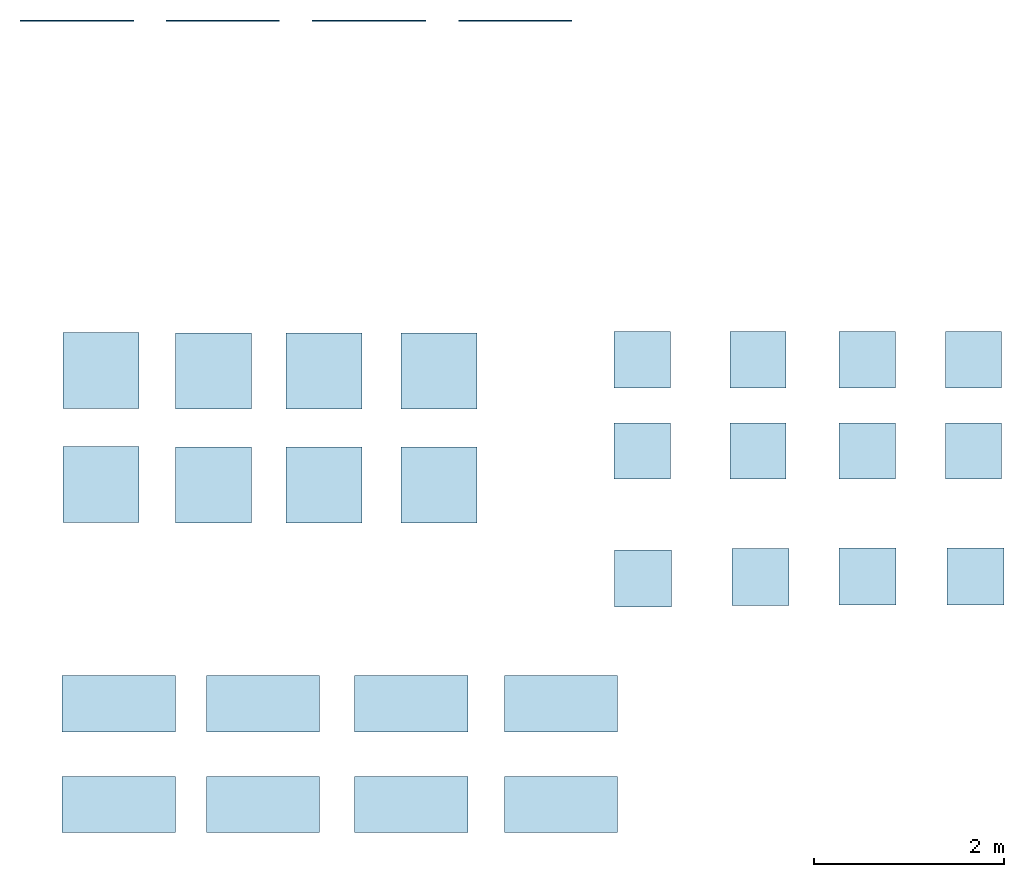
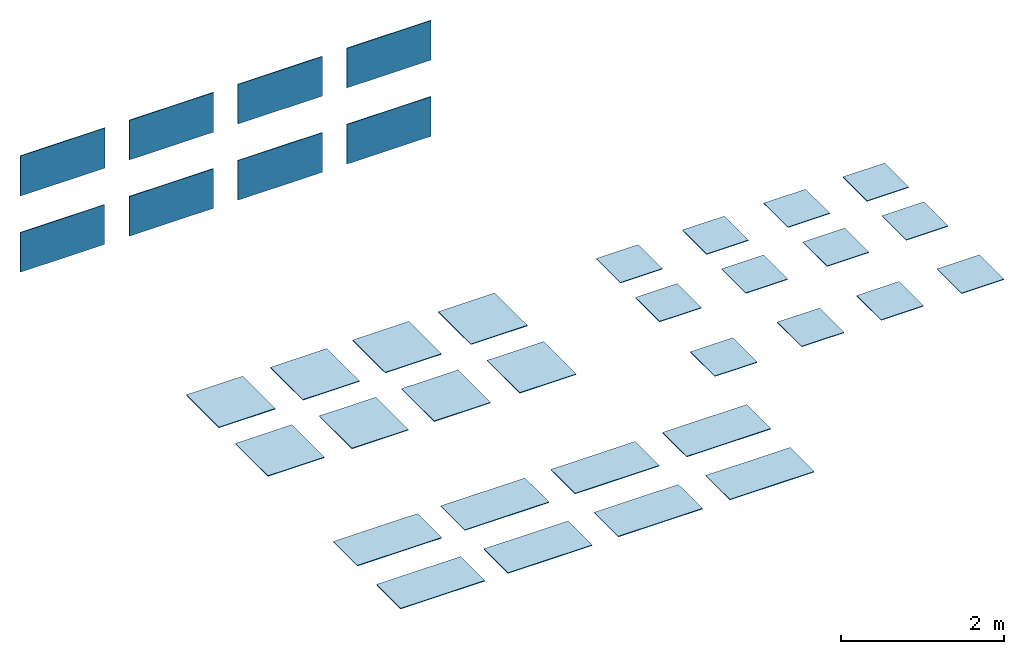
# One storey: 28 slabs, 8 walls.
"""IFC2X3 building model written with IfcOpenShell, lengths in metres."""

from ifc_helpers import new_model, entity, si_unit, converted_unit, derived_unit, direction, frame, frame_2d, origin, origin_2d_with_axis, place, context, subcontext, project, spatial, rectangle, extrude, material, layer, layer_set, layer_usage, type_object, element, save


model = new_model("IFC2X3")

# Units and contexts
model_context = context("Model", 3, precision=1e-05, world=origin(), true_north=direction((6.12303176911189e-17, 1.0)))
body_context = subcontext(model_context, "Body", "Model", "MODEL_VIEW")
ifc_project = project(units=[si_unit("LENGTHUNIT", "METRE"), si_unit("AREAUNIT", "SQUARE_METRE"), si_unit("VOLUMEUNIT", "CUBIC_METRE"), converted_unit("PLANEANGLEUNIT", "DEGREE", entity("IfcRatioMeasure", 0.0174532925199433), si_unit("PLANEANGLEUNIT", "RADIAN"), dimensions=[0, 0, 0, 0, 0, 0, 0]), si_unit("MASSUNIT", "GRAM", prefix="KILO"), si_unit("TIMEUNIT", "SECOND"), si_unit("FREQUENCYUNIT", "HERTZ"), si_unit("THERMODYNAMICTEMPERATUREUNIT", "DEGREE_CELSIUS"), derived_unit("THERMALTRANSMITTANCEUNIT", [(si_unit("MASSUNIT", "GRAM", prefix="KILO"), 1), (si_unit("THERMODYNAMICTEMPERATUREUNIT", "KELVIN"), -1), (si_unit("TIMEUNIT", "SECOND"), -3)]), derived_unit("VOLUMETRICFLOWRATEUNIT", [(si_unit("LENGTHUNIT", "METRE"), 3), (si_unit("TIMEUNIT", "SECOND"), -1)]), si_unit("ELECTRICCURRENTUNIT", "AMPERE"), si_unit("ELECTRICVOLTAGEUNIT", "VOLT"), si_unit("POWERUNIT", "WATT"), si_unit("FORCEUNIT", "NEWTON", prefix="KILO"), si_unit("ILLUMINANCEUNIT", "LUX"), si_unit("LUMINOUSFLUXUNIT", "LUMEN"), si_unit("LUMINOUSINTENSITYUNIT", "CANDELA"), derived_unit("USERDEFINED", [(si_unit("MASSUNIT", "GRAM", prefix="KILO"), -1), (si_unit("LENGTHUNIT", "METRE"), -2), (si_unit("TIMEUNIT", "SECOND"), 3), (si_unit("LUMINOUSFLUXUNIT", "LUMEN"), 1)]), derived_unit("LINEARVELOCITYUNIT", [(si_unit("LENGTHUNIT", "METRE"), 1), (si_unit("TIMEUNIT", "SECOND"), -1)]), si_unit("PRESSUREUNIT", "PASCAL"), derived_unit("USERDEFINED", [(si_unit("LENGTHUNIT", "METRE"), -2), (si_unit("MASSUNIT", "GRAM", prefix="KILO"), 1), (si_unit("TIMEUNIT", "SECOND"), -2)])], contexts=[model_context])

# Site, building, storey
site_placement = place(None, origin())
site = spatial("IfcSite", under=ifc_project, at=site_placement, Name="Default", CompositionType="ELEMENT")
building_placement = place(site_placement, origin())
building = spatial("IfcBuilding", under=site, at=building_placement, CompositionType="ELEMENT")
storey_placement = place(building_placement, origin())
storey = spatial("IfcBuildingStorey", under=building, at=storey_placement, Name="PORTOFINO FLOOR TILES", CompositionType="ELEMENT", Elevation=0.0)

# Slabs
ifc_material_1 = material(Name="VIVES PORTOFINO-R CEMENTO 59,3x119,3")
ifc_layer_1 = layer(ifc_material_1, 0.011)
ifc_layer_set_1 = layer_set([ifc_layer_1], Name="Suelo:VIVES PORTOFINO-R CEMENTO 59,3x119,3")
ifc_layer_usage_1 = layer_usage(ifc_layer_set_1, "AXIS3", "POSITIVE", 0.0)
slab_1_placement = place(storey_placement, origin())
element("IfcSlab", 1, at=slab_1_placement, inside=storey, material=ifc_layer_usage_1, Name="Suelo:VIVES PORTOFINO-R CEMENTO 59,3x119,3", ObjectType="Suelo:VIVES PORTOFINO-R CEMENTO 59,3x119,3", PredefinedType="FLOOR", context=body_context, shape_type="SweptSolid", body=[
    extrude(rectangle(XDim=0.593, YDim=1.193, at=origin_2d_with_axis()), frame((-1.97270552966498, -6.70473947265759, 0.0), z_axis=(0.0, 0.0, -1.0), x_axis=(0.0, 1.0, 0.0)), (0.0, 0.0, 1.0), 0.011),
])
ifc_material_2 = material(Name="VIVES PORTOFINO-R GRAFITO 80x80")
ifc_layer_2 = layer(ifc_material_2, 0.011)
ifc_layer_set_2 = layer_set([ifc_layer_2], Name="Suelo:VIVES PORTOFINO-R GRAFITO 80X80")
ifc_layer_usage_2 = layer_usage(ifc_layer_set_2, "AXIS3", "POSITIVE", 0.0)
slab_2_placement = place(storey_placement, origin())
element("IfcSlab", 2, at=slab_2_placement, inside=storey, material=ifc_layer_usage_2, Name="Suelo:VIVES PORTOFINO-R GRAFITO 80X80", ObjectType="Suelo:VIVES PORTOFINO-R GRAFITO 80X80", PredefinedType="FLOOR", context=body_context, shape_type="SweptSolid", body=[
    extrude(rectangle(XDim=0.8, YDim=0.8, at=origin_2d_with_axis()), frame((-0.975625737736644, -3.19930608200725, 0.0), z_axis=(0.0, 0.0, -1.0), x_axis=(0.0, 1.0, 0.0)), (0.0, 0.0, 1.0), 0.011),
])
ifc_material_3 = material(Name="VIVES PORTOFINO-R CREMA 80x80")
ifc_layer_3 = layer(ifc_material_3, 0.011)
ifc_layer_set_3 = layer_set([ifc_layer_3], Name="Suelo:VIVES PORTOFINO-R CREMA 80X80")
ifc_layer_usage_3 = layer_usage(ifc_layer_set_3, "AXIS3", "POSITIVE", 0.0)
slab_3_placement = place(storey_placement, origin())
element("IfcSlab", 3, at=slab_3_placement, inside=storey, material=ifc_layer_usage_3, Name="Suelo:VIVES PORTOFINO-R CREMA 80X80", ObjectType="Suelo:VIVES PORTOFINO-R CREMA 80X80", PredefinedType="FLOOR", context=body_context, shape_type="SweptSolid", body=[
    extrude(rectangle(XDim=0.8, YDim=0.8, at=origin_2d_with_axis()), frame((0.188008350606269, -3.19930608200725, 0.0), z_axis=(0.0, 0.0, -1.0), x_axis=(0.0, 1.0, 0.0)), (0.0, 0.0, 1.0), 0.011),
])
ifc_material_4 = material(Name="VIVES PORTOFINO-R HUMO 80x80")
ifc_layer_4 = layer(ifc_material_4, 0.011)
ifc_layer_set_4 = layer_set([ifc_layer_4], Name="Suelo:VIVES PORTOFINO-R HUMO 80X80")
ifc_layer_usage_4 = layer_usage(ifc_layer_set_4, "AXIS3", "POSITIVE", 0.0)
slab_4_placement = place(storey_placement, origin())
element("IfcSlab", 4, at=slab_4_placement, inside=storey, material=ifc_layer_usage_4, Name="Suelo:VIVES PORTOFINO-R HUMO 80X80", ObjectType="Suelo:VIVES PORTOFINO-R HUMO 80X80", PredefinedType="FLOOR", context=body_context, shape_type="SweptSolid", body=[
    extrude(rectangle(XDim=0.8, YDim=0.800000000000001, at=frame_2d((0.0, -5.55111512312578e-17), x_axis=(1.0, 0.0))), frame((1.40033123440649, -3.19930608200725, 0.0), z_axis=(0.0, 0.0, -1.0), x_axis=(0.0, 1.0, 0.0)), (0.0, 0.0, 1.0), 0.011),
])
ifc_material_5 = material(Name="VIVES PORTOFINO-R CEMENTO 80x80")
ifc_layer_5 = layer(ifc_material_5, 0.011)
ifc_layer_set_5 = layer_set([ifc_layer_5], Name="Suelo:VIVES PORTOFINO-R CEMENTO 80X80")
ifc_layer_usage_5 = layer_usage(ifc_layer_set_5, "AXIS3", "POSITIVE", 0.0)
slab_5_placement = place(storey_placement, origin())
element("IfcSlab", 5, at=slab_5_placement, inside=storey, material=ifc_layer_usage_5, Name="Suelo:VIVES PORTOFINO-R CEMENTO 80X80", ObjectType="Suelo:VIVES PORTOFINO-R CEMENTO 80X80", PredefinedType="FLOOR", context=body_context, shape_type="SweptSolid", body=[
    extrude(rectangle(XDim=0.8, YDim=0.8, at=origin_2d_with_axis()), frame((-2.16169188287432, -3.19438319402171, 0.0), z_axis=(0.0, 0.0, -1.0), x_axis=(0.0, 1.0, 0.0)), (0.0, 0.0, 1.0), 0.011),
])
ifc_material_6 = material(Name="VIVES PORTOFINO-R GRAFITO 59.3x119.3")
ifc_layer_6 = layer(ifc_material_6, 0.011)
ifc_layer_set_6 = layer_set([ifc_layer_6], Name="Suelo:VIVES PORTOFINO-R GRAFITO 59,3x119,3")
ifc_layer_usage_6 = layer_usage(ifc_layer_set_6, "AXIS3", "POSITIVE", 0.0)
slab_6_placement = place(storey_placement, origin())
element("IfcSlab", 6, at=slab_6_placement, inside=storey, material=ifc_layer_usage_6, Name="Suelo:VIVES PORTOFINO-R GRAFITO 59,3x119,3", ObjectType="Suelo:VIVES PORTOFINO-R GRAFITO 59,3x119,3", PredefinedType="FLOOR", context=body_context, shape_type="SweptSolid", body=[
    extrude(rectangle(XDim=0.593000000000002, YDim=1.193, at=frame_2d((-1.08246744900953e-15, 1.11022302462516e-16), x_axis=(1.0, 0.0))), frame((-0.452705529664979, -6.7047394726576, 0.0), z_axis=(0.0, 0.0, -1.0), x_axis=(0.0, 1.0, 0.0)), (0.0, 0.0, 1.0), 0.011),
])
ifc_material_7 = material(Name="VIVES PORTOFINO-R CREMA 59,3x119,3")
ifc_layer_7 = layer(ifc_material_7, 0.011)
ifc_layer_set_7 = layer_set([ifc_layer_7], Name="Suelo:VIVES PORTOFINO-R CREMA 59,3x119,3")
ifc_layer_usage_7 = layer_usage(ifc_layer_set_7, "AXIS3", "POSITIVE", 0.0)
slab_7_placement = place(storey_placement, origin())
element("IfcSlab", 7, at=slab_7_placement, inside=storey, material=ifc_layer_usage_7, Name="Suelo:VIVES PORTOFINO-R CREMA 59,3x119,3", ObjectType="Suelo:VIVES PORTOFINO-R CREMA 59,3x119,3", PredefinedType="FLOOR", context=body_context, shape_type="SweptSolid", body=[
    extrude(rectangle(XDim=0.593, YDim=1.193, at=origin_2d_with_axis()), frame((1.10729447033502, -6.7047394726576, 0.0), z_axis=(0.0, 0.0, -1.0), x_axis=(0.0, 1.0, 0.0)), (0.0, 0.0, 1.0), 0.011),
])
ifc_material_8 = material(Name="VIVES PORTOFINO-R HUMO 59,3x119,3")
ifc_layer_8 = layer(ifc_material_8, 0.011)
ifc_layer_set_8 = layer_set([ifc_layer_8], Name="Suelo:VIVES PORTOFINO-R HUMO 59,3x119,3")
ifc_layer_usage_8 = layer_usage(ifc_layer_set_8, "AXIS3", "POSITIVE", 0.0)
slab_8_placement = place(storey_placement, origin())
element("IfcSlab", 8, at=slab_8_placement, inside=storey, material=ifc_layer_usage_8, Name="Suelo:VIVES PORTOFINO-R HUMO 59,3x119,3", ObjectType="Suelo:VIVES PORTOFINO-R HUMO 59,3x119,3", PredefinedType="FLOOR", context=body_context, shape_type="SweptSolid", body=[
    extrude(rectangle(XDim=0.593000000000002, YDim=1.193, at=frame_2d((0.0, 2.22044604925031e-16), x_axis=(1.0, 0.0))), frame((2.68729447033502, -6.70473947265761, 0.0), z_axis=(0.0, 0.0, -1.0), x_axis=(0.0, 1.0, 0.0)), (0.0, 0.0, 1.0), 0.011),
])
ifc_material_9 = material(Name="VIVES PORTOFINO-SPR CEMENTO 59.3x119.3")
ifc_layer_9 = layer(ifc_material_9, 0.011)
ifc_layer_set_9 = layer_set([ifc_layer_9], Name="Suelo:VIVES PORTOFINO-SPR CEMENTO 59,3x119,3")
ifc_layer_usage_9 = layer_usage(ifc_layer_set_9, "AXIS3", "POSITIVE", 0.0)
slab_9_placement = place(storey_placement, origin())
element("IfcSlab", 9, at=slab_9_placement, inside=storey, material=ifc_layer_usage_9, Name="Suelo:VIVES PORTOFINO-SPR CEMENTO 59,3x119,3", ObjectType="Suelo:VIVES PORTOFINO-SPR CEMENTO 59,3x119,3", PredefinedType="FLOOR", context=body_context, shape_type="SweptSolid", body=[
    extrude(rectangle(XDim=0.593000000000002, YDim=1.193, at=frame_2d((1.08246744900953e-15, 0.0), x_axis=(1.0, 0.0))), frame((-1.97270552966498, -7.7647394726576, 0.0), z_axis=(0.0, 0.0, -1.0), x_axis=(0.0, 1.0, 0.0)), (0.0, 0.0, 1.0), 0.011),
])
ifc_material_10 = material(Name="VIVES PORTOFINO-SPR GRAFITO 59.3x119.3")
ifc_layer_10 = layer(ifc_material_10, 0.011)
ifc_layer_set_10 = layer_set([ifc_layer_10], Name="Suelo:VIVES PORTOFINO-SPR GRAFITO 59,3x119,3")
ifc_layer_usage_10 = layer_usage(ifc_layer_set_10, "AXIS3", "POSITIVE", 0.0)
slab_10_placement = place(storey_placement, origin())
element("IfcSlab", 10, at=slab_10_placement, inside=storey, material=ifc_layer_usage_10, Name="Suelo:VIVES PORTOFINO-SPR GRAFITO 59,3x119,3", ObjectType="Suelo:VIVES PORTOFINO-SPR GRAFITO 59,3x119,3", PredefinedType="FLOOR", context=body_context, shape_type="SweptSolid", body=[
    extrude(rectangle(XDim=0.593, YDim=1.193, at=origin_2d_with_axis()), frame((-0.45270552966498, -7.7647394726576, 0.0), z_axis=(0.0, 0.0, -1.0), x_axis=(0.0, 1.0, 0.0)), (0.0, 0.0, 1.0), 0.011),
])
ifc_material_11 = material(Name="VIVES PORTOFINO-SPR CREMA 59.3x119.3")
ifc_layer_11 = layer(ifc_material_11, 0.011)
ifc_layer_set_11 = layer_set([ifc_layer_11], Name="Suelo:VIVES PORTOFINO-SPR CREMA 59,3x119,3")
ifc_layer_usage_11 = layer_usage(ifc_layer_set_11, "AXIS3", "POSITIVE", 0.0)
slab_11_placement = place(storey_placement, origin())
element("IfcSlab", 11, at=slab_11_placement, inside=storey, material=ifc_layer_usage_11, Name="Suelo:VIVES PORTOFINO-SPR CREMA 59,3x119,3", ObjectType="Suelo:VIVES PORTOFINO-SPR CREMA 59,3x119,3", PredefinedType="FLOOR", context=body_context, shape_type="SweptSolid", body=[
    extrude(rectangle(XDim=0.593, YDim=1.193, at=origin_2d_with_axis()), frame((1.10729447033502, -7.7647394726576, 0.0), z_axis=(0.0, 0.0, -1.0), x_axis=(0.0, 1.0, 0.0)), (0.0, 0.0, 1.0), 0.011),
])
ifc_material_12 = material(Name="VIVES PORTOFINO-SPR HUMO 59.3x119.3")
ifc_layer_12 = layer(ifc_material_12, 0.011)
ifc_layer_set_12 = layer_set([ifc_layer_12], Name="Suelo:VIVES PORTOFINO-SPR HUMO 59,3x119,3")
ifc_layer_usage_12 = layer_usage(ifc_layer_set_12, "AXIS3", "POSITIVE", 0.0)
slab_12_placement = place(storey_placement, origin())
element("IfcSlab", 12, at=slab_12_placement, inside=storey, material=ifc_layer_usage_12, Name="Suelo:VIVES PORTOFINO-SPR HUMO 59,3x119,3", ObjectType="Suelo:VIVES PORTOFINO-SPR HUMO 59,3x119,3", PredefinedType="FLOOR", context=body_context, shape_type="SweptSolid", body=[
    extrude(rectangle(XDim=0.593, YDim=1.193, at=frame_2d((0.0, 2.22044604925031e-16), x_axis=(1.0, 0.0))), frame((2.68729447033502, -7.76473947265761, 0.0), z_axis=(0.0, 0.0, -1.0), x_axis=(0.0, 1.0, 0.0)), (0.0, 0.0, 1.0), 0.011),
])
ifc_material_13 = material(Name="VIVES PORTOFINO-SPR GRAFITO 80x80")
ifc_layer_13 = layer(ifc_material_13, 0.011)
ifc_layer_set_13 = layer_set([ifc_layer_13], Name="Suelo:VIVES PORTOFINO-SPR GRAFITO 80X80")
ifc_layer_usage_13 = layer_usage(ifc_layer_set_13, "AXIS3", "POSITIVE", 0.0)
slab_13_placement = place(storey_placement, origin())
element("IfcSlab", 13, at=slab_13_placement, inside=storey, material=ifc_layer_usage_13, Name="Suelo:VIVES PORTOFINO-SPR GRAFITO 80X80", ObjectType="Suelo:VIVES PORTOFINO-SPR GRAFITO 80X80", PredefinedType="FLOOR", context=body_context, shape_type="SweptSolid", body=[
    extrude(rectangle(XDim=0.800000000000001, YDim=0.8, at=frame_2d((5.55111512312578e-16, 0.0), x_axis=(1.0, 0.0))), frame((-0.975625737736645, -4.39930608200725, 0.0), z_axis=(0.0, 0.0, -1.0), x_axis=(0.0, 1.0, 0.0)), (0.0, 0.0, 1.0), 0.011),
])
ifc_material_14 = material(Name="VIVES PORTOFINO-SPR CREMA 80x80")
ifc_layer_14 = layer(ifc_material_14, 0.011)
ifc_layer_set_14 = layer_set([ifc_layer_14], Name="Suelo:VIVES PORTOFINO-SPR CREMA 80X80")
ifc_layer_usage_14 = layer_usage(ifc_layer_set_14, "AXIS3", "POSITIVE", 0.0)
slab_14_placement = place(storey_placement, origin())
element("IfcSlab", 14, at=slab_14_placement, inside=storey, material=ifc_layer_usage_14, Name="Suelo:VIVES PORTOFINO-SPR CREMA 80X80", ObjectType="Suelo:VIVES PORTOFINO-SPR CREMA 80X80", PredefinedType="FLOOR", context=body_context, shape_type="SweptSolid", body=[
    extrude(rectangle(XDim=0.800000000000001, YDim=0.800000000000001, at=frame_2d((5.55111512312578e-16, 0.0), x_axis=(1.0, 0.0))), frame((0.188008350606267, -4.39930608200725, 0.0), z_axis=(0.0, 0.0, -1.0), x_axis=(0.0, 1.0, 0.0)), (0.0, 0.0, 1.0), 0.011),
])
ifc_material_15 = material(Name="VIVES PORTOFINO-SPR HUMO 80x80")
ifc_layer_15 = layer(ifc_material_15, 0.011)
ifc_layer_set_15 = layer_set([ifc_layer_15], Name="Suelo:VIVES PORTOFINO-SPR HUMO 80X80")
ifc_layer_usage_15 = layer_usage(ifc_layer_set_15, "AXIS3", "POSITIVE", 0.0)
slab_15_placement = place(storey_placement, origin())
element("IfcSlab", 15, at=slab_15_placement, inside=storey, material=ifc_layer_usage_15, Name="Suelo:VIVES PORTOFINO-SPR HUMO 80X80", ObjectType="Suelo:VIVES PORTOFINO-SPR HUMO 80X80", PredefinedType="FLOOR", context=body_context, shape_type="SweptSolid", body=[
    extrude(rectangle(XDim=0.800000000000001, YDim=0.800000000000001, at=frame_2d((5.55111512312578e-16, -5.55111512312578e-17), x_axis=(1.0, 0.0))), frame((1.40033123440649, -4.39930608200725, 0.0), z_axis=(0.0, 0.0, -1.0), x_axis=(0.0, 1.0, 0.0)), (0.0, 0.0, 1.0), 0.011),
])
ifc_material_16 = material(Name="VIVES PORTOFINO-SPR CEMENTO 80x80")
ifc_layer_16 = layer(ifc_material_16, 0.011)
ifc_layer_set_16 = layer_set([ifc_layer_16], Name="Suelo:VIVES PORTOFINO-SPR CEMENTO 80X80")
ifc_layer_usage_16 = layer_usage(ifc_layer_set_16, "AXIS3", "POSITIVE", 0.0)
slab_16_placement = place(storey_placement, origin())
element("IfcSlab", 16, at=slab_16_placement, inside=storey, material=ifc_layer_usage_16, Name="Suelo:VIVES PORTOFINO-SPR CEMENTO 80X80", ObjectType="Suelo:VIVES PORTOFINO-SPR CEMENTO 80X80", PredefinedType="FLOOR", context=body_context, shape_type="SweptSolid", body=[
    extrude(rectangle(XDim=0.800000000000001, YDim=0.8, at=frame_2d((-2.77555756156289e-16, 0.0), x_axis=(1.0, 0.0))), frame((-2.16169188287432, -4.39438319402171, 0.0), z_axis=(0.0, 0.0, -1.0), x_axis=(0.0, 1.0, 0.0)), (0.0, 0.0, 1.0), 0.011),
])
ifc_material_17 = material(Name="VIVES PORTOFINO CEMENTO 60x60")
ifc_layer_17 = layer(ifc_material_17, 0.01)
ifc_layer_set_17 = layer_set([ifc_layer_17], Name="Suelo:VIVES PORTOFINO CEMENTO 60X60")
ifc_layer_usage_17 = layer_usage(ifc_layer_set_17, "AXIS3", "POSITIVE", 0.0)
slab_17_placement = place(storey_placement, origin())
element("IfcSlab", 17, at=slab_17_placement, inside=storey, material=ifc_layer_usage_17, Name="Suelo:VIVES PORTOFINO CEMENTO 60X60", ObjectType="Suelo:VIVES PORTOFINO CEMENTO 60X60", PredefinedType="FLOOR", context=body_context, shape_type="SweptSolid", body=[
    extrude(rectangle(XDim=0.6, YDim=0.6, at=origin_2d_with_axis()), frame((3.54787302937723, -5.38611436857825, 0.0), z_axis=(0.0, 0.0, -1.0), x_axis=(0.0, 1.0, 0.0)), (0.0, 0.0, 1.0), 0.01),
])
ifc_material_18 = material(Name="VIVES PORTOFINO GRAFITO 60x60")
ifc_layer_18 = layer(ifc_material_18, 0.01)
ifc_layer_set_18 = layer_set([ifc_layer_18], Name="Suelo:VIVES PORTOFINO GRAFITO 60X60")
ifc_layer_usage_18 = layer_usage(ifc_layer_set_18, "AXIS3", "POSITIVE", 0.0)
slab_18_placement = place(storey_placement, origin())
element("IfcSlab", 18, at=slab_18_placement, inside=storey, material=ifc_layer_usage_18, Name="Suelo:VIVES PORTOFINO GRAFITO 60X60", ObjectType="Suelo:VIVES PORTOFINO GRAFITO 60X60", PredefinedType="FLOOR", context=body_context, shape_type="SweptSolid", body=[
    extrude(rectangle(XDim=0.6, YDim=0.6, at=origin_2d_with_axis()), frame((4.78665556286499, -5.36940989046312, 0.0), z_axis=(0.0, 0.0, -1.0), x_axis=(0.0, 1.0, 0.0)), (0.0, 0.0, 1.0), 0.01),
])
ifc_material_19 = material(Name="VIVES PORTOFINO CREMA 60x60")
ifc_layer_19 = layer(ifc_material_19, 0.01)
ifc_layer_set_19 = layer_set([ifc_layer_19], Name="Suelo:VIVES PORTOFINO CREMA 60X60")
ifc_layer_usage_19 = layer_usage(ifc_layer_set_19, "AXIS3", "POSITIVE", 0.0)
slab_19_placement = place(storey_placement, origin())
element("IfcSlab", 19, at=slab_19_placement, inside=storey, material=ifc_layer_usage_19, Name="Suelo:VIVES PORTOFINO CREMA 60X60", ObjectType="Suelo:VIVES PORTOFINO CREMA 60X60", PredefinedType="FLOOR", context=body_context, shape_type="SweptSolid", body=[
    extrude(rectangle(XDim=0.6, YDim=0.6, at=origin_2d_with_axis()), frame((5.91330811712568, -5.36438319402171, 0.0), z_axis=(0.0, 0.0, -1.0), x_axis=(0.0, 1.0, 0.0)), (0.0, 0.0, 1.0), 0.01),
])
ifc_material_20 = material(Name="VIVES PORTOFINO HUMO 60x60")
ifc_layer_20 = layer(ifc_material_20, 0.01)
ifc_layer_set_20 = layer_set([ifc_layer_20], Name="Suelo:VIVES PORTOFINO HUMO 60X60")
ifc_layer_usage_20 = layer_usage(ifc_layer_set_20, "AXIS3", "POSITIVE", 0.0)
slab_20_placement = place(storey_placement, origin())
element("IfcSlab", 20, at=slab_20_placement, inside=storey, material=ifc_layer_usage_20, Name="Suelo:VIVES PORTOFINO HUMO 60X60", ObjectType="Suelo:VIVES PORTOFINO HUMO 60X60", PredefinedType="FLOOR", context=body_context, shape_type="SweptSolid", body=[
    extrude(rectangle(XDim=0.6, YDim=0.6, at=origin_2d_with_axis()), frame((7.05330811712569, -5.36438319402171, 0.0), z_axis=(0.0, 0.0, -1.0), x_axis=(0.0, 1.0, 0.0)), (0.0, 0.0, 1.0), 0.01),
])
ifc_material_21 = material(Name="VIVES PORTOFINO-SPR CEMENTO 59.3x59.3")
ifc_layer_21 = layer(ifc_material_21, 0.01)
ifc_layer_set_21 = layer_set([ifc_layer_21], Name="Suelo:VIVES PORTOFINO-SPR CEMENTO 59,3X59,3")
ifc_layer_usage_21 = layer_usage(ifc_layer_set_21, "AXIS3", "POSITIVE", 0.0)
slab_21_placement = place(storey_placement, origin())
element("IfcSlab", 21, at=slab_21_placement, inside=storey, material=ifc_layer_usage_21, Name="Suelo:VIVES PORTOFINO-SPR CEMENTO 59,3X59,3", ObjectType="Suelo:VIVES PORTOFINO-SPR CEMENTO 59,3X59,3", PredefinedType="FLOOR", context=body_context, shape_type="SweptSolid", body=[
    extrude(rectangle(XDim=0.593, YDim=0.593, at=frame_2d((2.4980018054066e-16, 0.0), x_axis=(1.0, 0.0))), frame((3.54180811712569, -4.0408831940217, 0.0), z_axis=(0.0, 0.0, -1.0), x_axis=(0.0, 1.0, 0.0)), (0.0, 0.0, 1.0), 0.01),
])
ifc_material_22 = material(Name="VIVES PORTOFINO-SPR GRAFITO 59.3x59.3")
ifc_layer_22 = layer(ifc_material_22, 0.01)
ifc_layer_set_22 = layer_set([ifc_layer_22], Name="Suelo:VIVES PORTOFINO-SPR GRAFITO 59,3X59,3")
ifc_layer_usage_22 = layer_usage(ifc_layer_set_22, "AXIS3", "POSITIVE", 0.0)
slab_22_placement = place(storey_placement, origin())
element("IfcSlab", 22, at=slab_22_placement, inside=storey, material=ifc_layer_usage_22, Name="Suelo:VIVES PORTOFINO-SPR GRAFITO 59,3X59,3", ObjectType="Suelo:VIVES PORTOFINO-SPR GRAFITO 59,3X59,3", PredefinedType="FLOOR", context=body_context, shape_type="SweptSolid", body=[
    extrude(rectangle(XDim=0.593000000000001, YDim=0.593, at=frame_2d((0.0, 2.4980018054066e-16), x_axis=(1.0, 0.0))), frame((4.76180811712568, -4.04088319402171, 0.0), z_axis=(0.0, 0.0, -1.0), x_axis=(0.0, 1.0, 0.0)), (0.0, 0.0, 1.0), 0.01),
])
ifc_material_23 = material(Name="VIVES PORTOFINO-SPR CREMA 59.3x59.3")
ifc_layer_23 = layer(ifc_material_23, 0.01)
ifc_layer_set_23 = layer_set([ifc_layer_23], Name="Suelo:VIVES PORTOFINO-SPR CREMA 59,3X59,3")
ifc_layer_usage_23 = layer_usage(ifc_layer_set_23, "AXIS3", "POSITIVE", 0.0)
slab_23_placement = place(storey_placement, origin())
element("IfcSlab", 23, at=slab_23_placement, inside=storey, material=ifc_layer_usage_23, Name="Suelo:VIVES PORTOFINO-SPR CREMA 59,3X59,3", ObjectType="Suelo:VIVES PORTOFINO-SPR CREMA 59,3X59,3", PredefinedType="FLOOR", context=body_context, shape_type="SweptSolid", body=[
    extrude(rectangle(XDim=0.593, YDim=0.593, at=frame_2d((2.4980018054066e-16, 0.0), x_axis=(1.0, 0.0))), frame((5.91180811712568, -4.04088319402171, 0.0), z_axis=(0.0, 0.0, -1.0), x_axis=(0.0, 1.0, 0.0)), (0.0, 0.0, 1.0), 0.01),
])
ifc_material_24 = material(Name="VIVES PORTOFINO-SPR HUMO 59.3x59.3")
ifc_layer_24 = layer(ifc_material_24, 0.01)
ifc_layer_set_24 = layer_set([ifc_layer_24], Name="Suelo:VIVES PORTOFINO-SPR HUMO 59,3X59,3")
ifc_layer_usage_24 = layer_usage(ifc_layer_set_24, "AXIS3", "POSITIVE", 0.0)
slab_24_placement = place(storey_placement, origin())
element("IfcSlab", 24, at=slab_24_placement, inside=storey, material=ifc_layer_usage_24, Name="Suelo:VIVES PORTOFINO-SPR HUMO 59,3X59,3", ObjectType="Suelo:VIVES PORTOFINO-SPR HUMO 59,3X59,3", PredefinedType="FLOOR", context=body_context, shape_type="SweptSolid", body=[
    extrude(rectangle(XDim=0.593, YDim=0.593, at=origin_2d_with_axis()), frame((7.03180811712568, -4.04088319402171, 0.0), z_axis=(0.0, 0.0, -1.0), x_axis=(0.0, 1.0, 0.0)), (0.0, 0.0, 1.0), 0.01),
])
ifc_material_25 = material(Name="VIVES PORTOFINO-R CEMENTO 59,3x59,3")
ifc_layer_25 = layer(ifc_material_25, 0.01)
ifc_layer_set_25 = layer_set([ifc_layer_25], Name="Suelo:VIVES PORTOFINO-R CEMENTO 59,3X59,3")
ifc_layer_usage_25 = layer_usage(ifc_layer_set_25, "AXIS3", "POSITIVE", 0.0)
slab_25_placement = place(storey_placement, origin())
element("IfcSlab", 25, at=slab_25_placement, inside=storey, material=ifc_layer_usage_25, Name="Suelo:VIVES PORTOFINO-R CEMENTO 59,3X59,3", ObjectType="Suelo:VIVES PORTOFINO-R CEMENTO 59,3X59,3", PredefinedType="FLOOR", context=body_context, shape_type="SweptSolid", body=[
    extrude(rectangle(XDim=0.593, YDim=0.593, at=frame_2d((2.4980018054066e-16, 0.0), x_axis=(1.0, 0.0))), frame((3.54180811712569, -3.0808831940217, 0.0), z_axis=(0.0, 0.0, -1.0), x_axis=(0.0, 1.0, 0.0)), (0.0, 0.0, 1.0), 0.01),
])
ifc_material_26 = material(Name="VIVES PORTOFINO-R GRAFITO 59.3x59.3")
ifc_layer_26 = layer(ifc_material_26, 0.01)
ifc_layer_set_26 = layer_set([ifc_layer_26], Name="Suelo:VIVES PORTOFINO-R GRAFITO 59,3X59,3")
ifc_layer_usage_26 = layer_usage(ifc_layer_set_26, "AXIS3", "POSITIVE", 0.0)
slab_26_placement = place(storey_placement, origin())
element("IfcSlab", 26, at=slab_26_placement, inside=storey, material=ifc_layer_usage_26, Name="Suelo:VIVES PORTOFINO-R GRAFITO 59,3X59,3", ObjectType="Suelo:VIVES PORTOFINO-R GRAFITO 59,3X59,3", PredefinedType="FLOOR", context=body_context, shape_type="SweptSolid", body=[
    extrude(rectangle(XDim=0.593, YDim=0.593, at=frame_2d((-2.4980018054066e-16, -2.4980018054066e-16), x_axis=(1.0, 0.0))), frame((4.76180811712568, -3.0808831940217, 0.0), z_axis=(0.0, 0.0, -1.0), x_axis=(0.0, 1.0, 0.0)), (0.0, 0.0, 1.0), 0.01),
])
ifc_material_27 = material(Name="VIVES PORTOFINO-R CREMA 59.3x59.3")
ifc_layer_27 = layer(ifc_material_27, 0.01)
ifc_layer_set_27 = layer_set([ifc_layer_27], Name="Suelo:VIVES PORTOFINO-R CREMA 59,3X59,3")
ifc_layer_usage_27 = layer_usage(ifc_layer_set_27, "AXIS3", "POSITIVE", 0.0)
slab_27_placement = place(storey_placement, origin())
element("IfcSlab", 27, at=slab_27_placement, inside=storey, material=ifc_layer_usage_27, Name="Suelo:VIVES PORTOFINO-R CREMA 59,3X59,3", ObjectType="Suelo:VIVES PORTOFINO-R CREMA 59,3X59,3", PredefinedType="FLOOR", context=body_context, shape_type="SweptSolid", body=[
    extrude(rectangle(XDim=0.593, YDim=0.593, at=frame_2d((2.4980018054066e-16, 0.0), x_axis=(1.0, 0.0))), frame((5.91180811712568, -3.08088319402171, 0.0), z_axis=(0.0, 0.0, -1.0), x_axis=(0.0, 1.0, 0.0)), (0.0, 0.0, 1.0), 0.01),
])
ifc_material_28 = material(Name="VIVES PORTOFINO-R HUMO 59.3x59.3")
ifc_layer_28 = layer(ifc_material_28, 0.01)
ifc_layer_set_28 = layer_set([ifc_layer_28], Name="Suelo:VIVES PORTOFINO-R HUMO 59,3X59,3")
ifc_layer_usage_28 = layer_usage(ifc_layer_set_28, "AXIS3", "POSITIVE", 0.0)
slab_28_placement = place(storey_placement, origin())
element("IfcSlab", 28, at=slab_28_placement, inside=storey, material=ifc_layer_usage_28, Name="Suelo:VIVES PORTOFINO-R HUMO 59,3X59,3", ObjectType="Suelo:VIVES PORTOFINO-R HUMO 59,3X59,3", PredefinedType="FLOOR", context=body_context, shape_type="SweptSolid", body=[
    extrude(rectangle(XDim=0.593, YDim=0.593, at=frame_2d((-2.4980018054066e-16, 0.0), x_axis=(1.0, 0.0))), frame((7.03180811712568, -3.08088319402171, 0.0), z_axis=(0.0, 0.0, -1.0), x_axis=(0.0, 1.0, 0.0)), (0.0, 0.0, 1.0), 0.01),
])

# Walls
ifc_layer_29 = layer(ifc_material_9, 0.011)
ifc_layer_set_29 = layer_set([ifc_layer_29], Name="Muro básico:VIVES - PORTOFINO-SPR CEMENTO 59,3X119,3")
ifc_layer_usage_29 = layer_usage(ifc_layer_set_29, "AXIS2", "NEGATIVE", 0.0055)
wall_type_1 = type_object("IfcWallType", Name="Muro básico:VIVES - PORTOFINO-SPR CEMENTO 59,3X119,3", PredefinedType="STANDARD", material=ifc_layer_set_29)
wall_1_placement = place(storey_placement, frame((-3.01340162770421, 0.494191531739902, 0.0)))
element("IfcWallStandardCase", 29, at=wall_1_placement, inside=storey, type_object=wall_type_1, material=ifc_layer_usage_29, Name="Muro básico:VIVES - PORTOFINO-SPR CEMENTO 59,3X119,3", ObjectType="Muro básico:VIVES - PORTOFINO-SPR CEMENTO 59,3X119,3", context=body_context, shape_type="SweptSolid", body=[
    extrude(rectangle(XDim=1.193, YDim=0.0109999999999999, at=frame_2d((0.5965, 1.34441069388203e-17), x_axis=(-1.0, 0.0))), origin(), (0.0, 0.0, 1.0), 0.593),
])
ifc_layer_30 = layer(ifc_material_10, 0.011)
ifc_layer_set_30 = layer_set([ifc_layer_30], Name="Muro básico:VIVES - PORTOFINO-SPR GRAFITO 59,3X119,3")
ifc_layer_usage_30 = layer_usage(ifc_layer_set_30, "AXIS2", "NEGATIVE", 0.0055)
wall_type_2 = type_object("IfcWallType", Name="Muro básico:VIVES - PORTOFINO-SPR GRAFITO 59,3X119,3", PredefinedType="STANDARD", material=ifc_layer_set_30)
wall_2_placement = place(storey_placement, frame((-1.47340162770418, 0.494191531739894, 0.0)))
element("IfcWallStandardCase", 30, at=wall_2_placement, inside=storey, type_object=wall_type_2, material=ifc_layer_usage_30, Name="Muro básico:VIVES - PORTOFINO-SPR GRAFITO 59,3X119,3", ObjectType="Muro básico:VIVES - PORTOFINO-SPR GRAFITO 59,3X119,3", context=body_context, shape_type="SweptSolid", body=[
    extrude(rectangle(XDim=1.193, YDim=0.0109999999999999, at=frame_2d((0.596499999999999, 1.34441069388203e-17), x_axis=(-1.0, 0.0))), origin(), (0.0, 0.0, 1.0), 0.593),
])
ifc_layer_31 = layer(ifc_material_11, 0.011)
ifc_layer_set_31 = layer_set([ifc_layer_31], Name="Muro básico:VIVES - PORTOFINO-SPR CREMA 59,3X119,3")
ifc_layer_usage_31 = layer_usage(ifc_layer_set_31, "AXIS2", "NEGATIVE", 0.0055)
wall_type_3 = type_object("IfcWallType", Name="Muro básico:VIVES - PORTOFINO-SPR CREMA 59,3X119,3", PredefinedType="STANDARD", material=ifc_layer_set_31)
wall_3_placement = place(storey_placement, frame((0.0665983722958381, 0.494191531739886, 0.0)))
element("IfcWallStandardCase", 31, at=wall_3_placement, inside=storey, type_object=wall_type_3, material=ifc_layer_usage_31, Name="Muro básico:VIVES - PORTOFINO-SPR CREMA 59,3X119,3", ObjectType="Muro básico:VIVES - PORTOFINO-SPR CREMA 59,3X119,3", context=body_context, shape_type="SweptSolid", body=[
    extrude(rectangle(XDim=1.193, YDim=0.0109999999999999, at=frame_2d((0.596499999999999, 1.34441069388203e-17), x_axis=(-1.0, 0.0))), origin(), (0.0, 0.0, 1.0), 0.593),
])
ifc_layer_32 = layer(ifc_material_12, 0.011)
ifc_layer_set_32 = layer_set([ifc_layer_32], Name="Muro básico:VIVES - PORTOFINO-SPR HUMO 59,3X119,3")
ifc_layer_usage_32 = layer_usage(ifc_layer_set_32, "AXIS2", "NEGATIVE", 0.0055)
wall_type_4 = type_object("IfcWallType", Name="Muro básico:VIVES - PORTOFINO-SPR HUMO 59,3X119,3", PredefinedType="STANDARD", material=ifc_layer_set_32)
wall_4_placement = place(storey_placement, frame((1.60659837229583, 0.494191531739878, 0.0)))
element("IfcWallStandardCase", 32, at=wall_4_placement, inside=storey, type_object=wall_type_4, material=ifc_layer_usage_32, Name="Muro básico:VIVES - PORTOFINO-SPR HUMO 59,3X119,3", ObjectType="Muro básico:VIVES - PORTOFINO-SPR HUMO 59,3X119,3", context=body_context, shape_type="SweptSolid", body=[
    extrude(rectangle(XDim=1.193, YDim=0.0109999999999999, at=frame_2d((0.5965, 1.34441069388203e-17), x_axis=(-1.0, 0.0))), origin(), (0.0, 0.0, 1.0), 0.593),
])
ifc_layer_33 = layer(ifc_material_1, 0.011)
ifc_layer_set_33 = layer_set([ifc_layer_33], Name="Muro básico:VIVES - PORTOFINO-R CEMENTO 59,3X119,3")
ifc_layer_usage_33 = layer_usage(ifc_layer_set_33, "AXIS2", "NEGATIVE", 0.0055)
wall_type_5 = type_object("IfcWallType", Name="Muro básico:VIVES - PORTOFINO-R CEMENTO 59,3X119,3", PredefinedType="STANDARD", material=ifc_layer_set_33)
wall_5_placement = place(storey_placement, frame((-3.01340162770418, 0.494191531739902, 1.14)))
element("IfcWallStandardCase", 33, at=wall_5_placement, inside=storey, type_object=wall_type_5, material=ifc_layer_usage_33, Name="Muro básico:VIVES - PORTOFINO-R CEMENTO 59,3X119,3", ObjectType="Muro básico:VIVES - PORTOFINO-R CEMENTO 59,3X119,3", context=body_context, shape_type="SweptSolid", body=[
    extrude(rectangle(XDim=1.2, YDim=0.0109999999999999, at=frame_2d((0.600000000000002, -2.16840434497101e-17), x_axis=(-1.0, 0.0))), origin(), (0.0, 0.0, 1.0), 0.6),
])
ifc_layer_34 = layer(ifc_material_6, 0.011)
ifc_layer_set_34 = layer_set([ifc_layer_34], Name="Muro básico:VIVES - PORTOFINO-R GRAFITO 59,3X119,3")
ifc_layer_usage_34 = layer_usage(ifc_layer_set_34, "AXIS2", "NEGATIVE", 0.0055)
wall_type_6 = type_object("IfcWallType", Name="Muro básico:VIVES - PORTOFINO-R GRAFITO 59,3X119,3", PredefinedType="STANDARD", material=ifc_layer_set_34)
wall_6_placement = place(storey_placement, frame((-1.47340162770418, 0.494191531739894, 1.14)))
element("IfcWallStandardCase", 34, at=wall_6_placement, inside=storey, type_object=wall_type_6, material=ifc_layer_usage_34, Name="Muro básico:VIVES - PORTOFINO-R GRAFITO 59,3X119,3", ObjectType="Muro básico:VIVES - PORTOFINO-R GRAFITO 59,3X119,3", context=body_context, shape_type="SweptSolid", body=[
    extrude(rectangle(XDim=1.193, YDim=0.0109999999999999, at=frame_2d((0.596499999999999, 1.34441069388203e-17), x_axis=(-1.0, 0.0))), origin(), (0.0, 0.0, 1.0), 0.593),
])
ifc_layer_35 = layer(ifc_material_7, 0.011)
ifc_layer_set_35 = layer_set([ifc_layer_35], Name="Muro básico:VIVES - PORTOFINO-R CREMA 59,3X119,3")
ifc_layer_usage_35 = layer_usage(ifc_layer_set_35, "AXIS2", "NEGATIVE", 0.0055)
wall_type_7 = type_object("IfcWallType", Name="Muro básico:VIVES - PORTOFINO-R CREMA 59,3X119,3", PredefinedType="STANDARD", material=ifc_layer_set_35)
wall_7_placement = place(storey_placement, frame((0.0665983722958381, 0.494191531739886, 1.14)))
element("IfcWallStandardCase", 35, at=wall_7_placement, inside=storey, type_object=wall_type_7, material=ifc_layer_usage_35, Name="Muro básico:VIVES - PORTOFINO-R CREMA 59,3X119,3", ObjectType="Muro básico:VIVES - PORTOFINO-R CREMA 59,3X119,3", context=body_context, shape_type="SweptSolid", body=[
    extrude(rectangle(XDim=1.193, YDim=0.0109999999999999, at=frame_2d((0.596499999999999, 1.34441069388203e-17), x_axis=(-1.0, 0.0))), origin(), (0.0, 0.0, 1.0), 0.593),
])
ifc_layer_36 = layer(ifc_material_8, 0.011)
ifc_layer_set_36 = layer_set([ifc_layer_36], Name="Muro básico:VIVES - PORTOFINO-R HUMO 59,3X119,3")
ifc_layer_usage_36 = layer_usage(ifc_layer_set_36, "AXIS2", "NEGATIVE", 0.0055)
wall_type_8 = type_object("IfcWallType", Name="Muro básico:VIVES - PORTOFINO-R HUMO 59,3X119,3", PredefinedType="STANDARD", material=ifc_layer_set_36)
wall_8_placement = place(storey_placement, frame((1.60659837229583, 0.494191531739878, 1.14)))
element("IfcWallStandardCase", 36, at=wall_8_placement, inside=storey, type_object=wall_type_8, material=ifc_layer_usage_36, Name="Muro básico:VIVES - PORTOFINO-R HUMO 59,3X119,3", ObjectType="Muro básico:VIVES - PORTOFINO-R HUMO 59,3X119,3", context=body_context, shape_type="SweptSolid", body=[
    extrude(rectangle(XDim=1.193, YDim=0.0109999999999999, at=frame_2d((0.5965, 1.34441069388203e-17), x_axis=(-1.0, 0.0))), origin(), (0.0, 0.0, 1.0), 0.593),
])

save(model, "model.ifc")
